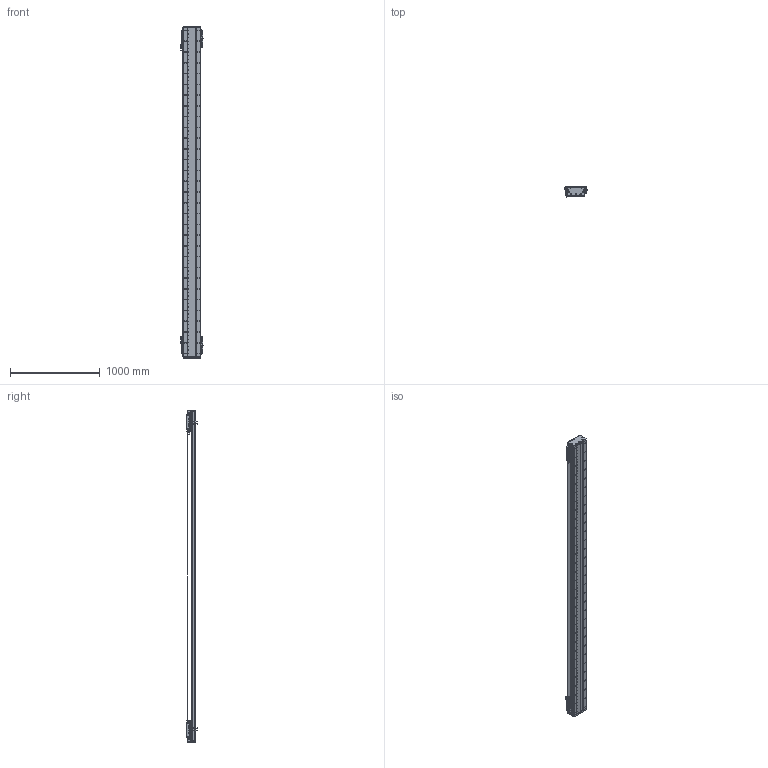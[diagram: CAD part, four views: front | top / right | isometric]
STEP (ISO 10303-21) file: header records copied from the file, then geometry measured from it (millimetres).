
FILE_DESCRIPTION (( 'STEP AP203' ), '1' );
FILE_NAME ('DA-C195-2-C2-T3200-C010-0.2 眻盄萇儂.STEP', '2025-08-14T02:16:42', ( '' ), ( '' ), 'SwSTEP 2.0', 'SolidWorks 2019', '' );
FILE_SCHEMA (( 'CONFIG_CONTROL_DESIGN' ));
Length unit declared in the file: millimetre
Products named in the file (19): LMT黍杅芛-1; DA195詩湍嶺輸-1; PM-Y65嫖萇羲壽郪璃-1; MS200 棠掑喜S315-T1740-1; IU-CU195-L-00 菁釱(L3660); DKW168-HXJ-ZJ-00 笢潔滅袉砎蝶-1; DKW-GYP-ZJ-00 笢潔嫖萇覜茼え-1; DA-C195-2-C2-T3200-C010-0.2 眻盄萇儂; IU-CU195-L 菁釱絳寢-1; DA165-GYP-00 光电感应片(默认)-1; 葩璃 DA95-GT-T-00-1; DA95-HXJ-00 遣喳砎蝶-1; DA-C195-GD-DB-H-00 傷啣-1; DKW-KGZ-ZJ-00 中间光电开关支架-1; PM-T45ㄗ侂狟ㄘ-1; DA195詩湍菜輸-1; CU195-C2賑輸-俋楷-1; DA195詩湍裔啣-1; DA195詩湍郪璃-1
Assembly tree (37 placements, depth 3):
  DA-C195-2-C2-T3200-C010-0.2 眻盄萇儂
    DA195詩湍郪璃-1
      DA195詩湍菜輸-1  x2
      DA195詩湍裔啣-1
      DA195詩湍嶺輸-1  x2
      DA95-HXJ-00 遣喳砎蝶-1  x8
      DA-C195-GD-DB-H-00 傷啣-1  x2
    IU-CU195-L 菁釱絳寢-1
      IU-CU195-L-00 菁釱(L3660)
      葩璃 DA95-GT-T-00-1  x4
    LMT黍杅芛-1  x2
    MS200 棠掑喜S315-T1740-1
    PM-T45ㄗ侂狟ㄘ-1  x4
    DA165-GYP-00 光电感应片(默认)-1  x2
    PM-Y65嫖萇羲壽郪璃-1
    DKW168-HXJ-ZJ-00 笢潔滅袉砎蝶-1
    DKW-GYP-ZJ-00 笢潔嫖萇覜茼え-1
    DKW-KGZ-ZJ-00 中间光电开关支架-1
    CU195-C2賑輸-俋楷-1  x2
Bounding box: 258.2 x 115.45 x 3700 mm (x, y, z)
Volume: 21693491.5 mm3; surface area: 6398617.2 mm2
Topology: 114 solids, 242 shells, 7467 faces, 20351 edges, 12737 vertices
Faces by surface type: cylinder 3740, plane 2643, cone 916, torus 88, sphere 72, bspline 8
Entity records: 174857 total; most frequent: CARTESIAN_POINT 49935, ORIENTED_EDGE 26534, DIRECTION 24634, EDGE_CURVE 13267, AXIS2_PLACEMENT_3D 9117, VERTEX_POINT 8624, LINE 6400, VECTOR 6400
